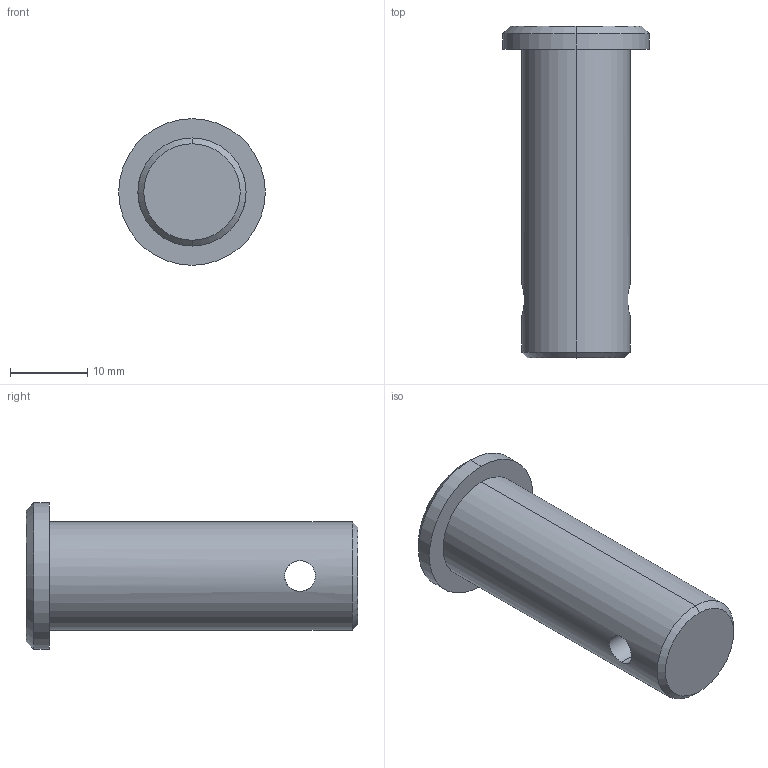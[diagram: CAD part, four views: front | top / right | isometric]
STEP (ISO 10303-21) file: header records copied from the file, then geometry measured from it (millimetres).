
FILE_DESCRIPTION (( 'STEP AP203' ), '1' );
FILE_NAME ('65660.W0114.step', '2023-10-06T09:59:16', ( '' ), ( '' ), 'SwSTEP 2.0', 'SolidWorks 2019', '' );
FILE_SCHEMA (( 'CONFIG_CONTROL_DESIGN' ));
Length unit declared in the file: millimetre
Products named in the file (1): 65660.W0114
Bounding box: 19 x 43 x 19 mm (x, y, z)
Volume: 6793.3 mm3; surface area: 2596 mm2
Topology: 1 solids, 1 shells, 13 faces, 26 edges, 16 vertices
Faces by surface type: cylinder 6, cone 4, plane 3
Entity records: 529 total; most frequent: CARTESIAN_POINT 172, DIRECTION 62, ORIENTED_EDGE 52, AXIS2_PLACEMENT_3D 26, EDGE_CURVE 26, EDGE_LOOP 16, VERTEX_POINT 16, ADVANCED_FACE 13
